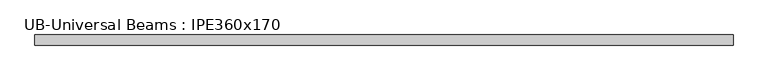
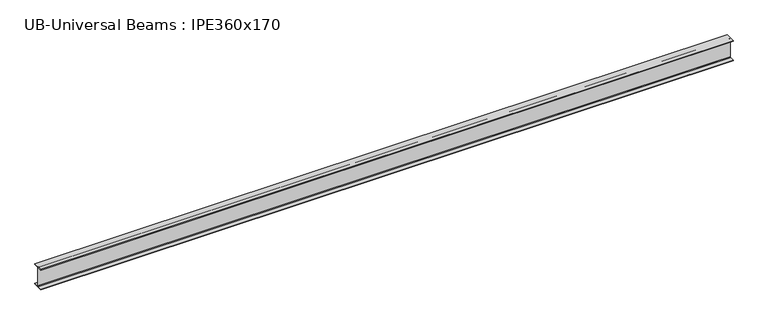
"""IFC4 building model written with IfcOpenShell, lengths in millimetres: beam geometry, UB-Universal Beams : IPE360x170."""

from ifc_helpers import new_model, si_unit, point, frame, frame_2d, origin, place, context, project, spatial, polyline, circle_curve, trimmed, segment, composite_curve, outline, extrude, source, transform, mapped, element, save


def ub_universal_beams_ipe360x170_7345a894(model_context):
    return source(origin(), model_context, "Body", "SweptSolid", [
        extrude(outline(composite_curve([segment(polyline([(-85.0, -169.8), (-11.9, -169.8)]), True, "CONTINUOUS"), segment(trimmed(circle_curve(frame_2d((-11.9, -160.9)), 8.9), [point((-11.9, -169.8))], [point((-3.0, -160.9))], True, "CARTESIAN"), True, "CONTINUOUS"), segment(polyline([(-3.0, -160.9), (-3.0, 160.9)]), True, "CONTINUOUS"), segment(trimmed(circle_curve(frame_2d((-11.9, 160.9)), 8.9), [point((-3.0, 160.9))], [point((-11.9, 169.8))], True, "CARTESIAN"), True, "CONTINUOUS"), segment(polyline([(-11.9, 169.8), (-85.0, 169.8), (-85.0, 180.0), (85.0, 180.0), (85.0, 169.8), (11.9, 169.8)]), True, "CONTINUOUS"), segment(trimmed(circle_curve(frame_2d((11.9, 160.9)), 8.9), [point((11.9, 169.8))], [point((3.0, 160.9))], True, "CARTESIAN"), True, "CONTINUOUS"), segment(polyline([(3.0, 160.9), (3.0, -160.9)]), True, "CONTINUOUS"), segment(trimmed(circle_curve(frame_2d((11.9, -160.9)), 8.9), [point((3.0, -160.9))], [point((11.9, -169.8))], True, "CARTESIAN"), True, "CONTINUOUS"), segment(polyline([(11.9, -169.8), (85.0, -169.8), (85.0, -180.0), (-85.0, -180.0), (-85.0, -169.8)]), True, "CONTINUOUS")], self_intersect=False)), frame((-5697.4, 0.0, 0.0), z_axis=(1.0, 0.0, 0.0), x_axis=(0.0, 1.0, 0.0)), (0.0, 0.0, 1.0), 11702.4331121),
    ])


if __name__ == "__main__":
    model = new_model("IFC4")
    model_context = context("Model", 3, world=origin())
    ifc_project = project(units=[si_unit("LENGTHUNIT", "METRE", prefix="MILLI")], contexts=[model_context])
    site = spatial("IfcSite", under=ifc_project)
    building = spatial("IfcBuilding", under=site)
    placement = place(None, origin())
    ub_universal_beams_ipe360x170_shape = ub_universal_beams_ipe360x170_7345a894(model_context)
    element("IfcBeam", 1, ObjectType="UB-Universal Beams : IPE360x170", at=placement, inside=building, context=model_context, shape_type="MappedRepresentation", body=[
        mapped(ub_universal_beams_ipe360x170_shape, transform((0.0, 0.0, 0.0), x_axis=(1.0, 0.0, 0.0), y_axis=(0.0, 1.0, 0.0), z_axis=(0.0, 0.0, 1.0))),
    ])
    save(model, "model.ifc")
